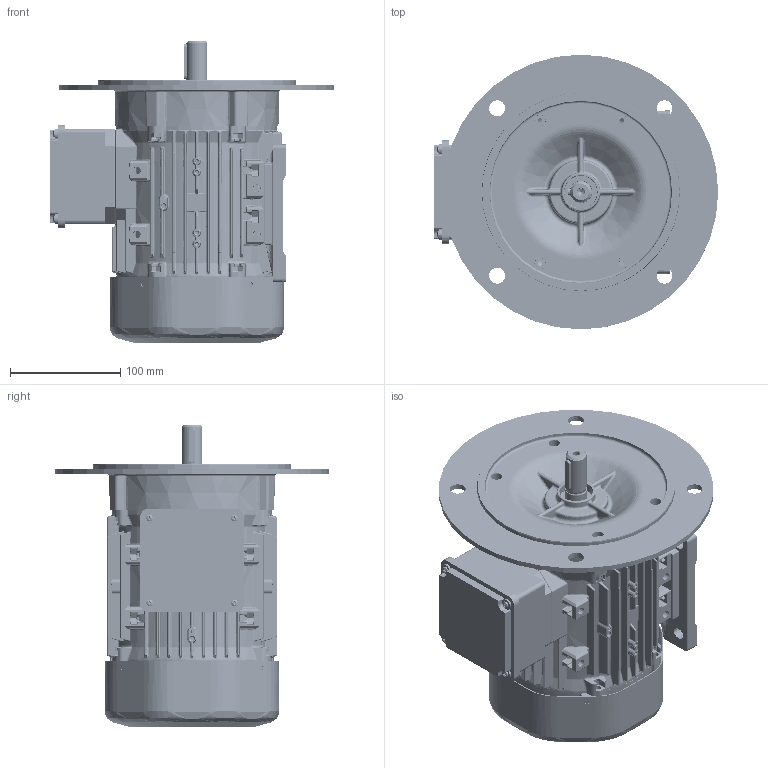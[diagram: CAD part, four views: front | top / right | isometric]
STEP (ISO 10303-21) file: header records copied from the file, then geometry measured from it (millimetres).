
FILE_DESCRIPTION(/* description */ (''),/* implementation_level */ '2;1');
FILE_NAME(/* name */ 'OUTLOOK VIEW QH80 PA B35 - BIGGER FF215 SPL.stp',/* time_stamp */ '2021-09-10T13:48:48+03:00',/* author */ (''),/* organization */ (''),/* preprocessor_version */ 'ST-DEVELOPER v16',/* originating_system */ 'SIEMENS PLM Software NX 11.0',/* authorisation */ '');
FILE_SCHEMA (('AUTOMOTIVE_DESIGN { 1 0 10303 214 3 1 1 1 }'));
Products named in the file (1): 26061960DD717ny4
Bounding box: 258.25 x 249.5 x 275 mm (x, y, z)
Volume: 2592165.1 mm3; surface area: 1045835.2 mm2
Topology: 43 solids, 47 shells, 10397 faces, 25372 edges, 14630 vertices
Faces by surface type: bspline 3156, cylinder 3106, plane 2345, sphere 691, cone 517, torus 500, extrusion 82
Full cylindrical faces by diameter (mm): 0.1 x2, 3.3 x5, 3.985 x3, 4 x4, 4.2 x1, 4.22 x3, 4.5 x4, 5 x4, 5.5 x4, 6 x1, 6.4 x1, 6.6 x1, 8 x1, 10 x4, 14.5 x4, 18.38 x2, 18.4 x1, 19 x3, 19.4 x2, 20 x6, 20.2 x1, 20.5 x1, 25 x2, 28.8 x8, 30 x2, 38.45 x4, 40.59 x8, 47 x5, 47.05 x1, 47.6 x2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
Entity records: 421103 total; most frequent: CARTESIAN_POINT 155672, ORIENTED_EDGE 48488, DIRECTION 43677, EDGE_CURVE 24244, AXIS2_PLACEMENT_3D 17909, VERTEX_POINT 14465, EDGE_LOOP 11411, ADVANCED_FACE 10394
